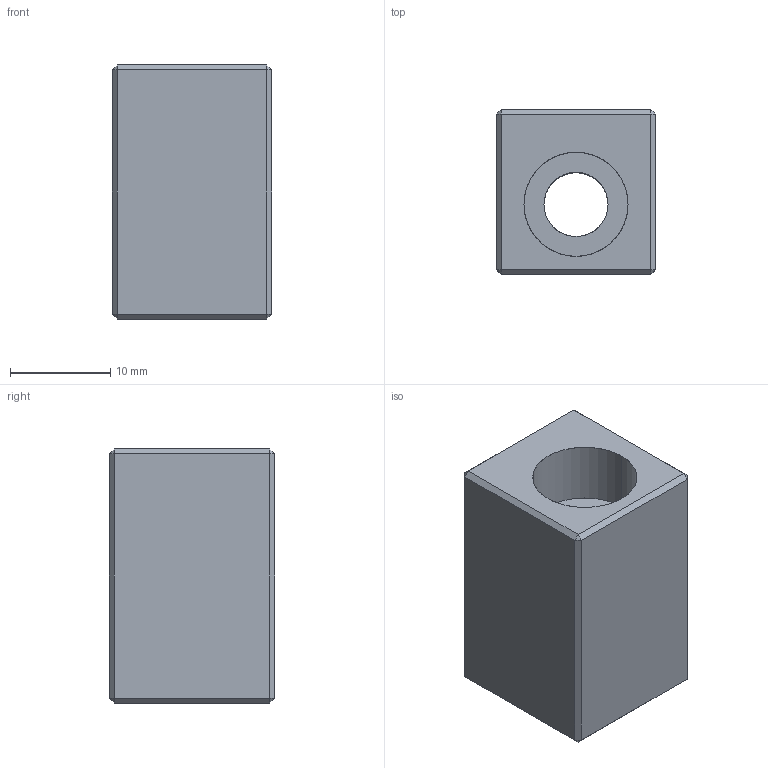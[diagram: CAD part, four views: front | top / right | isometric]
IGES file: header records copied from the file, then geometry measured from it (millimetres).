
Start section: SolidWorks IGES FILE using analytic representation for surfaces
Global section: file name: C:\WIX2\Positioning\3030\3030W240.igs; native system: SolidWorks 2003 by SolidWorks Corporation; preprocessor: Version 5.3; author: Joan; date: 030722.120014; units: millimetre
Bounding box: 15.9 x 16.5 x 25.4 mm (x, y, z)
Surface area: 2629.6 mm2 (no closed solid volume)
Topology: 0 solids, 0 shells, 31 faces, 240 edges, 240 vertices
Faces by surface type: bspline 27, revolution 4
